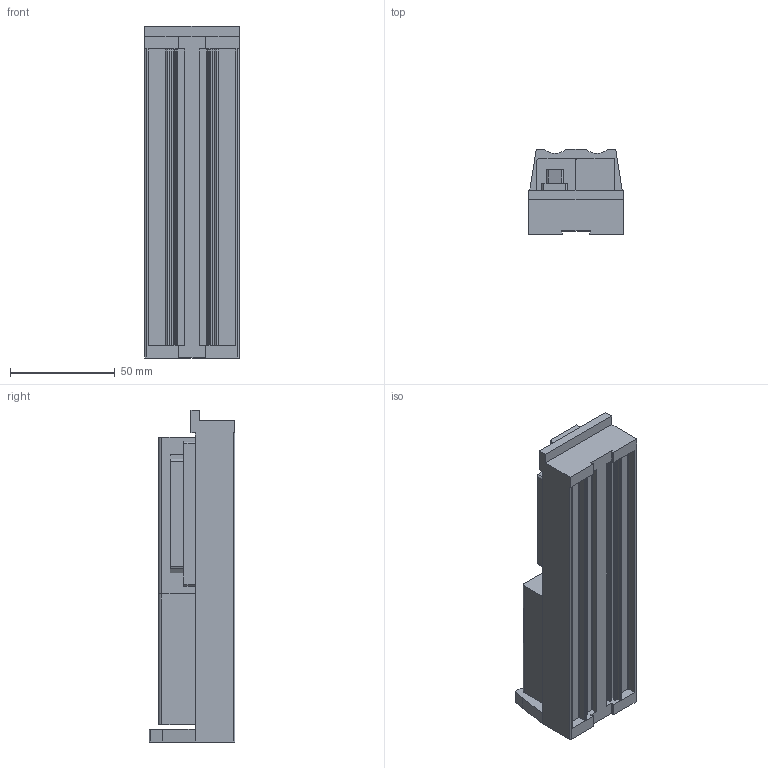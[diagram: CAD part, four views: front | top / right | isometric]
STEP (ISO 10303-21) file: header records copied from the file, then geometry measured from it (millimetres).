
FILE_DESCRIPTION((''),'2;1');
FILE_NAME('2959638','2009-09-22T',('jsalinas'),(''),'PRO/ENGINEER BY PARAMETRIC TECHNOLOGY CORPORATION, 2006080','PRO/ENGINEER BY PARAMETRIC TECHNOLOGY CORPORATION, 2006080','');
FILE_SCHEMA(('CONFIG_CONTROL_DESIGN'));
Length unit declared in the file: millimetre
Products named in the file (1): 2959638
Bounding box: 45 x 41 x 158.8 mm (x, y, z)
Volume: 184343.8 mm3; surface area: 42097 mm2
Topology: 1 solids, 1 shells, 448 faces, 1088 edges, 725 vertices
Faces by surface type: plane 318, cylinder 130
Entity records: 13122 total; most frequent: CARTESIAN_POINT 2261, DIRECTION 2244, ORIENTED_EDGE 2176, EDGE_CURVE 1088, VECTOR 828, LINE 828, VERTEX_POINT 725, AXIS2_PLACEMENT_3D 708
